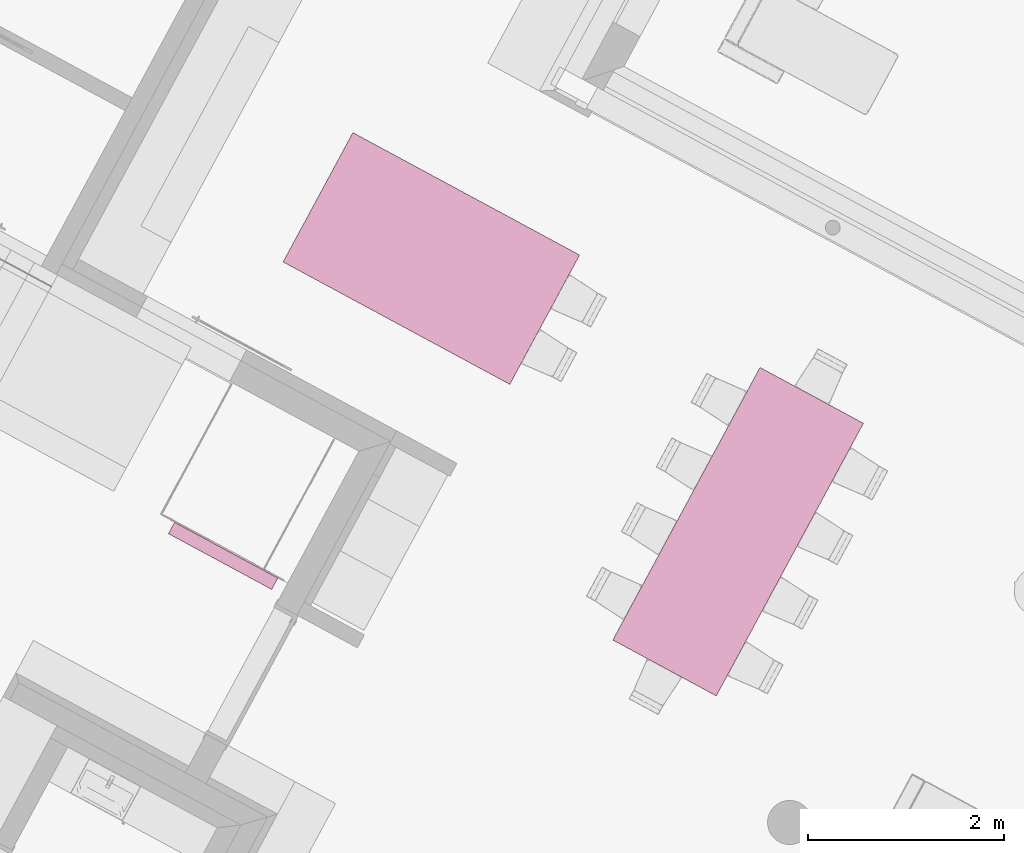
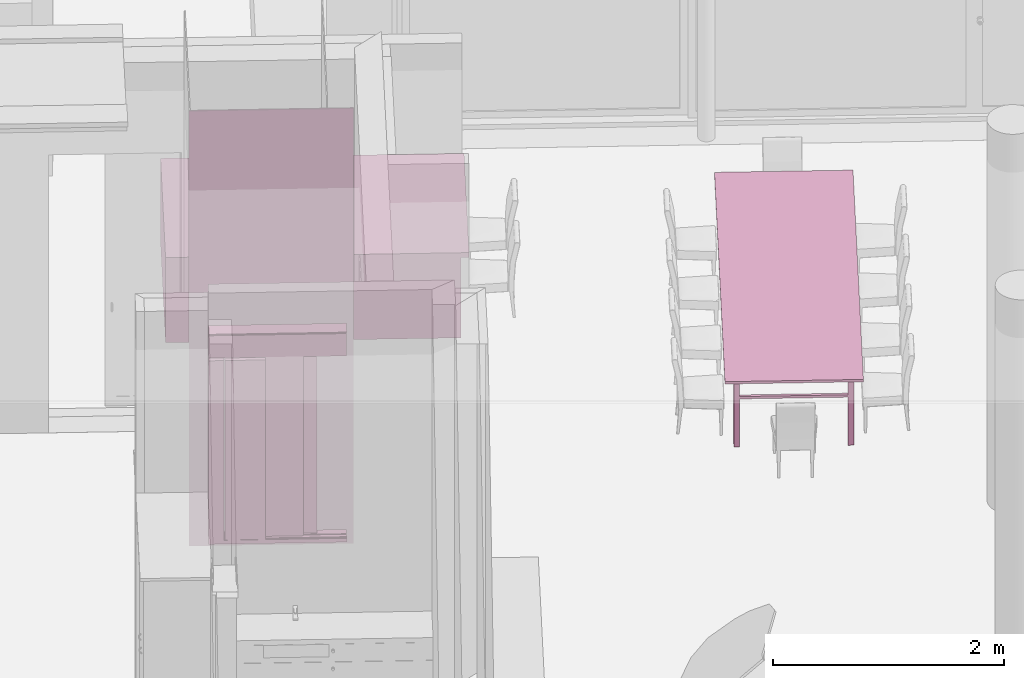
# One storey, part 32 of 36: 2 furnishings, 1 transport element, 1 opening, plus 1 element that does not belong to this part.
"""IFC2X3 building model written with IfcOpenShell, lengths in metres."""

from ifc_helpers import new_model, entity, si_unit, converted_unit, derived_unit, money_unit, direction, frame, origin_with_axes, origin_2d_with_axis, place, context, subcontext, project, spatial, polyline, rectangle, outline, extrude, open_shell, faceted_brep, surface_model, material, type_object, element, fill, save


model = new_model("IFC2X3")

# Units and contexts
model_context = context("Model", 3, precision=1e-05, world=origin_with_axes(), true_north=direction((0.0, 1.0)))
body_context = subcontext(model_context, "Body", "Model", "MODEL_VIEW")
ifc_project = project(units=[si_unit("LENGTHUNIT", "METRE"), si_unit("AREAUNIT", "SQUARE_METRE"), si_unit("VOLUMEUNIT", "CUBIC_METRE"), converted_unit("PLANEANGLEUNIT", "DEGREE", entity("IfcPlaneAngleMeasure", 0.0174532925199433), si_unit("PLANEANGLEUNIT", "RADIAN"), dimensions=[0, 0, 0, 0, 0, 0, 0]), money_unit("EUR"), converted_unit("TIMEUNIT", "Year", entity("IfcTimeMeasure", 31556926.0), si_unit("TIMEUNIT", "SECOND"), dimensions=[0, 0, 1, 0, 0, 0, 0]), si_unit("MASSUNIT", "GRAM", prefix="KILO"), si_unit("THERMODYNAMICTEMPERATUREUNIT", "DEGREE_CELSIUS"), si_unit("LUMINOUSINTENSITYUNIT", "LUMEN"), si_unit("ENERGYUNIT", "JOULE", prefix="MEGA"), derived_unit("THERMALCONDUCTANCEUNIT", [(si_unit("POWERUNIT", "WATT"), 1), (si_unit("LENGTHUNIT", "METRE"), -1), (si_unit("THERMODYNAMICTEMPERATUREUNIT", "KELVIN"), -1)]), derived_unit("SPECIFICHEATCAPACITYUNIT", [(si_unit("ENERGYUNIT", "JOULE"), 1), (si_unit("MASSUNIT", "GRAM", prefix="KILO"), -1), (si_unit("THERMODYNAMICTEMPERATUREUNIT", "KELVIN"), -1)]), derived_unit("MASSDENSITYUNIT", [(si_unit("MASSUNIT", "GRAM", prefix="KILO"), 1), (si_unit("VOLUMEUNIT", "CUBIC_METRE"), -1)])], contexts=[model_context])

# Site, building, storey
site_placement = place(None, frame((-3.949935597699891, 1.740105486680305, 0.0), z_axis=(0.0, 0.0, 1.0), x_axis=(0.8799804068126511, -0.475009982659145, 0.0)))
site = spatial("IfcSite", under=ifc_project, at=site_placement, Name="Gelände", CompositionType="ELEMENT")
building_placement = place(site_placement, origin_with_axes())
building = spatial("IfcBuilding", under=site, at=building_placement, Name="Gebäude", CompositionType="ELEMENT")
storey_placement = place(building_placement, origin_with_axes())
storey = spatial("IfcBuildingStorey", under=building, at=storey_placement, Name="Erdgeschoss", CompositionType="ELEMENT", Elevation=0.0)

# Furnishing
furniture_type_1 = type_object("IfcFurnitureType", Name="Tisch rechteckig 1 22", AssemblyPlace="NOTDEFINED")
furnishing_1_placement = place(storey_placement, frame((20.36440704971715, 10.19223236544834, 0.0), z_axis=(0.0, 0.0, 1.0), x_axis=(1.0, 0.0, 0.0)))
element("IfcFurnishingElement", 1, at=furnishing_1_placement, inside=storey, type_object=furniture_type_1, Name="Objekt-0073", ObjectType="FURNITURE", context=body_context, shape_type="Brep", body=[
    faceted_brep([(0.13, 0.08, 0.0), (0.08, 0.08, 0.0), (0.08, 0.13, 0.0), (0.13, 0.13, 0.0), (0.13, 0.08, 0.725), (0.08, 0.08, 0.725), (0.08, 0.13, 0.725), (0.13, 0.13, 0.725)], [[[0, 1, 2, 3]], [[1, 0, 4, 5]], [[2, 1, 5, 6]], [[3, 2, 6, 7]], [[0, 3, 7, 4]], [[5, 4, 7, 6]]]),
    faceted_brep([(1.119999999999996, 0.08, 0.0), (1.069999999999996, 0.08, 0.0), (1.069999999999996, 0.13, 0.0), (1.119999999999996, 0.13, 0.0), (1.119999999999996, 0.08, 0.725), (1.069999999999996, 0.08, 0.725), (1.069999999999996, 0.13, 0.725), (1.119999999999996, 0.13, 0.725)], [[[0, 1, 2, 3]], [[1, 0, 4, 5]], [[2, 1, 5, 6]], [[3, 2, 6, 7]], [[0, 3, 7, 4]], [[5, 4, 7, 6]]]),
    faceted_brep([(0.13, 3.032064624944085, 0.0), (0.08, 3.032064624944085, 0.0), (0.08, 3.082064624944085, 0.0), (0.13, 3.082064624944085, 0.0), (0.13, 3.032064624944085, 0.725), (0.08, 3.032064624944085, 0.725), (0.08, 3.082064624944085, 0.725), (0.13, 3.082064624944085, 0.725)], [[[0, 1, 2, 3]], [[1, 0, 4, 5]], [[2, 1, 5, 6]], [[3, 2, 6, 7]], [[0, 3, 7, 4]], [[5, 4, 7, 6]]]),
    faceted_brep([(1.119999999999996, 3.032064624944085, 0.0), (1.069999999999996, 3.032064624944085, 0.0), (1.069999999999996, 3.082064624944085, 0.0), (1.119999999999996, 3.082064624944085, 0.0), (1.119999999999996, 3.032064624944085, 0.725), (1.069999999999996, 3.032064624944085, 0.725), (1.069999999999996, 3.082064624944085, 0.725), (1.119999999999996, 3.082064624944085, 0.725)], [[[0, 1, 2, 3]], [[1, 0, 4, 5]], [[2, 1, 5, 6]], [[3, 2, 6, 7]], [[0, 3, 7, 4]], [[5, 4, 7, 6]]]),
    faceted_brep([(1.199999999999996, 0.0, 0.725), (0.0, 0.0, 0.725), (0.0, 3.162064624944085, 0.725), (1.199999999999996, 3.162064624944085, 0.725), (1.199999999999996, 0.0, 0.75), (0.0, 0.0, 0.75), (0.0, 3.162064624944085, 0.75), (1.199999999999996, 3.162064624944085, 0.75)], [[[0, 1, 2, 3]], [[1, 0, 4, 5]], [[2, 1, 5, 6]], [[3, 2, 6, 7]], [[0, 3, 7, 4]], [[5, 4, 7, 6]]]),
    faceted_brep([(1.069999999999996, 0.0925, 0.5), (0.13, 0.0925, 0.5), (0.13, 0.1175, 0.5), (1.069999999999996, 0.1175, 0.5), (1.069999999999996, 0.0925, 0.525), (0.13, 0.0925, 0.525), (0.13, 0.1175, 0.525), (1.069999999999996, 0.1175, 0.525)], [[[0, 1, 2, 3]], [[1, 0, 4, 5]], [[2, 1, 5, 6]], [[3, 2, 6, 7]], [[0, 3, 7, 4]], [[5, 4, 7, 6]]]),
    faceted_brep([(0.1175, 0.13, 0.5), (0.0925, 0.13, 0.5), (0.0925, 3.032064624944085, 0.5), (0.1175, 3.032064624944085, 0.5), (0.1175, 0.13, 0.525), (0.0925, 0.13, 0.525), (0.0925, 3.032064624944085, 0.525), (0.1175, 3.032064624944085, 0.525)], [[[0, 1, 2, 3]], [[1, 0, 4, 5]], [[2, 1, 5, 6]], [[3, 2, 6, 7]], [[0, 3, 7, 4]], [[5, 4, 7, 6]]]),
    faceted_brep([(0.1300000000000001, 3.069564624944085, 0.5), (1.069999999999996, 3.069564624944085, 0.5), (1.069999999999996, 3.044564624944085, 0.5), (0.1300000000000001, 3.044564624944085, 0.5), (0.1300000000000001, 3.069564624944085, 0.525), (1.069999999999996, 3.069564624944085, 0.525), (1.069999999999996, 3.044564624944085, 0.525), (0.1300000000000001, 3.044564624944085, 0.525)], [[[0, 1, 2, 3]], [[1, 0, 4, 5]], [[2, 1, 5, 6]], [[3, 2, 6, 7]], [[0, 3, 7, 4]], [[5, 4, 7, 6]]]),
    faceted_brep([(1.082499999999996, 3.032064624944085, 0.5), (1.107499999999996, 3.032064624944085, 0.5), (1.107499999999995, 0.1299999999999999, 0.5), (1.082499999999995, 0.1299999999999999, 0.5), (1.082499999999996, 3.032064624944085, 0.525), (1.107499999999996, 3.032064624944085, 0.525), (1.107499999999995, 0.1299999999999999, 0.525), (1.082499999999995, 0.1299999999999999, 0.525)], [[[0, 1, 2, 3]], [[1, 0, 4, 5]], [[2, 1, 5, 6]], [[3, 2, 6, 7]], [[0, 3, 7, 4]], [[5, 4, 7, 6]]]),
])

# Transport elements, opening
ifc_material = material(Name="Glas, Normalglas")
transport_element_type_1 = type_object("IfcTransportElementType", Name="Glas, Normalglas 10", PredefinedType="ELEVATOR")
transport_element_1_placement = place(storey_placement, frame((15.6924954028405, 9.127799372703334, -0.15), z_axis=(0.0, 0.0, 1.0), x_axis=(0.9999999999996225, 8.689518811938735e-07, 0.0)))
transport_element_1 = element("IfcTransportElement", 2, at=transport_element_1_placement, inside=storey, type_object=transport_element_type_1, material=ifc_material, Name="Aufzug2", ObjectType="ELEVATOR", context=body_context, shape_type="SweptSolid", body=[
    extrude(outline(polyline([(0.0, 0.0), (1.424798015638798, 0.0), (1.424798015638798, 0.009999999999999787), (0.01000001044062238, 0.009999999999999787), (0.0, 0.0)])), origin_with_axes(), (0.0, 0.0, 1.0), 4.600000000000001),
])
opening_placement = place(transport_element_1_placement, frame((0.6342390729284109, 0.0, 0.15), z_axis=(0.0, 0.0, 1.0), x_axis=(1.0, 0.0, 0.0)))
opening = element("IfcOpeningElement", 3, at=opening_placement, cuts=transport_element_1, Name="Tür-011", context=body_context, shape_type="SweptSolid", body=[
    extrude(rectangle(XDim=0.9000000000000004, YDim=2.05, at=origin_2d_with_axis()), frame((8.689756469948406e-09, 0.009999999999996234, 1.025), z_axis=(8.689518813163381e-07, 0.9999999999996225, 0.0), x_axis=(0.9999999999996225, -8.689518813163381e-07, 0.0)), (0.0, 0.0, -1.0), 0.03),
])
transport_element_type_2 = type_object("IfcTransportElementType", Name="Teleskoptür 22", PredefinedType="ELEVATOR")
transport_element_2_placement = place(opening_placement, frame((0.4499999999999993, 0.0, 0.0), z_axis=(0.0, 0.0, 1.0), x_axis=(-1.0, 0.0, 0.0)))
transport_element_2 = element("IfcTransportElement", 4, at=transport_element_2_placement, inside=storey, type_object=transport_element_type_2, Name="Tür-011", ObjectType="ELEVATOR", context=body_context, shape_type="SurfaceModel", body=[
    faceted_brep([(-0.2774999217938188, 0.09000118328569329, 1.9), (-0.2774999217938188, 0.09000118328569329, 1.938), (0.9200000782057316, 0.09000014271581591, 1.938), (0.9200000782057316, 0.09000014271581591, 1.9), (-0.2774999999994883, 1.18328572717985e-06, 1.9), (-0.2774999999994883, 1.18328572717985e-06, 2.18), (-0.2774998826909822, 0.1350011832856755, 2.18), (-0.2774998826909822, 0.1350011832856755, 2.177), (-0.2774999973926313, 0.003001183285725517, 2.177), (-0.2774999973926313, 0.003001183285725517, 1.903), (-0.2774999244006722, 0.08700118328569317, 1.903), (-0.2774999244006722, 0.08700118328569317, 1.938), (0.9200000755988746, 0.0870001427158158, 1.938), (0.9200000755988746, 0.0870001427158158, 1.903), (0.9200000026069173, 0.003000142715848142, 1.903), (0.9200000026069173, 0.003000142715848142, 2.177), (0.9200001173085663, 0.1350001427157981, 2.177), (0.9200001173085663, 0.1350001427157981, 2.18), (0.9200000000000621, 1.42715849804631e-07, 2.18), (0.9200000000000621, 1.42715849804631e-07, 1.9)], [[[0, 1, 2, 3]], [[0, 4, 5, 6, 7, 8, 9, 10, 11, 1]], [[1, 11, 12, 2]], [[3, 2, 12, 13, 14, 15, 16, 17, 18, 19]], [[4, 0, 3, 19]], [[5, 4, 19, 18]], [[6, 5, 18, 17]], [[7, 6, 17, 16]], [[8, 7, 16, 15]], [[9, 8, 15, 14]], [[10, 9, 14, 13]], [[11, 10, 13, 12]]]),
    faceted_brep([(-0.2774999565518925, 0.05000118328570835, 1.903), (-0.2774999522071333, 0.05500118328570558, 1.903), (0.9200000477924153, 0.0550001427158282, 1.903), (0.9200000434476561, 0.0500001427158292, 1.903), (-0.2774999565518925, 0.05000118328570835, 2.14), (-0.2774999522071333, 0.05500118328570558, 2.14), (0.9200000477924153, 0.0550001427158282, 2.14), (0.9200000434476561, 0.0500001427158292, 2.14)], [[[0, 1, 2, 3]], [[0, 4, 5, 1]], [[1, 5, 6, 2]], [[3, 2, 6, 7]], [[4, 0, 3, 7]], [[5, 4, 7, 6]]]),
    faceted_brep([(-0.2774999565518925, 0.05000118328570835, 2.13), (-0.277499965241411, 0.04000118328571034, 2.13), (0.9200000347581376, 0.04000014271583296, 2.13), (0.9200000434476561, 0.0500001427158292, 2.13), (-0.2774999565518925, 0.05000118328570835, 2.07), (-0.277499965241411, 0.04000118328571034, 2.07), (0.9200000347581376, 0.04000014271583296, 2.07), (0.9200000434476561, 0.0500001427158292, 2.07)], [[[0, 1, 2, 3]], [[0, 4, 5, 1]], [[1, 5, 6, 2]], [[3, 2, 6, 7]], [[4, 0, 3, 7]], [[5, 4, 7, 6]]]),
    faceted_brep([(-0.2774999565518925, 0.05000118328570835, 2.0), (-0.277499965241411, 0.04000118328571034, 2.0), (0.9200000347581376, 0.04000014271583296, 2.0), (0.9200000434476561, 0.0500001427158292, 2.0), (-0.2774999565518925, 0.05000118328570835, 1.96), (-0.277499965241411, 0.04000118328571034, 1.96), (0.9200000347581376, 0.04000014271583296, 1.96), (0.9200000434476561, 0.0500001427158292, 1.96)], [[[0, 1, 2, 3]], [[0, 4, 5, 1]], [[1, 5, 6, 2]], [[3, 2, 6, 7]], [[4, 0, 3, 7]], [[5, 4, 7, 6]]]),
    faceted_brep([(-0.2774999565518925, 0.05000118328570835, 2.07), (-0.2774999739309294, 0.03000118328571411, 2.07), (0.9200000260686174, 0.03000014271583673, 2.07), (0.9200000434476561, 0.0500001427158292, 2.07), (-0.2774999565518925, 0.05000118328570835, 2.0), (-0.2774999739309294, 0.03000118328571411, 2.0), (0.9200000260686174, 0.03000014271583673, 2.0), (0.9200000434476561, 0.0500001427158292, 2.0)], [[[0, 1, 2, 3]], [[0, 4, 5, 1]], [[1, 5, 6, 2]], [[3, 2, 6, 7]], [[4, 0, 3, 7]], [[5, 4, 7, 6]]]),
    faceted_brep([(-0.2774999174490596, 0.09500118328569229, 1.903), (-0.2774999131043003, 0.1000011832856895, 1.903), (0.92000008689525, 0.1000001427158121, 1.903), (0.9200000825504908, 0.09500014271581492, 1.903), (-0.2774999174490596, 0.09500118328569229, 2.14), (-0.2774999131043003, 0.1000011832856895, 2.14), (0.92000008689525, 0.1000001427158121, 2.14), (0.9200000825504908, 0.09500014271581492, 2.14)], [[[0, 1, 2, 3]], [[0, 4, 5, 1]], [[1, 5, 6, 2]], [[3, 2, 6, 7]], [[4, 0, 3, 7]], [[5, 4, 7, 6]]]),
    faceted_brep([(-0.2774999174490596, 0.09500118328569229, 2.13), (-0.277499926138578, 0.08500118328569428, 2.13), (0.9200000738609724, 0.0850001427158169, 2.13), (0.9200000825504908, 0.09500014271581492, 2.13), (-0.2774999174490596, 0.09500118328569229, 2.07), (-0.277499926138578, 0.08500118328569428, 2.07), (0.9200000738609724, 0.0850001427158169, 2.07), (0.9200000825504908, 0.09500014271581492, 2.07)], [[[0, 1, 2, 3]], [[0, 4, 5, 1]], [[1, 5, 6, 2]], [[3, 2, 6, 7]], [[4, 0, 3, 7]], [[5, 4, 7, 6]]]),
    faceted_brep([(-0.2774999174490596, 0.09500118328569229, 2.0), (-0.277499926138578, 0.08500118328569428, 2.0), (0.9200000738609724, 0.0850001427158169, 2.0), (0.9200000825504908, 0.09500014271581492, 2.0), (-0.2774999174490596, 0.09500118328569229, 1.96), (-0.277499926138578, 0.08500118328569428, 1.96), (0.9200000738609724, 0.0850001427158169, 1.96), (0.9200000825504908, 0.09500014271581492, 1.96)], [[[0, 1, 2, 3]], [[0, 4, 5, 1]], [[1, 5, 6, 2]], [[3, 2, 6, 7]], [[4, 0, 3, 7]], [[5, 4, 7, 6]]]),
    faceted_brep([(-0.2774999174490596, 0.09500118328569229, 2.07), (-0.2774999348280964, 0.07500118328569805, 2.07), (0.9200000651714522, 0.07500014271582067, 2.07), (0.9200000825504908, 0.09500014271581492, 2.07), (-0.2774999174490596, 0.09500118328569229, 2.0), (-0.2774999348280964, 0.07500118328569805, 2.0), (0.9200000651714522, 0.07500014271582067, 2.0), (0.9200000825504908, 0.09500014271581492, 2.0)], [[[0, 1, 2, 3]], [[0, 4, 5, 1]], [[1, 5, 6, 2]], [[3, 2, 6, 7]], [[4, 0, 3, 7]], [[5, 4, 7, 6]]]),
    faceted_brep([(-0.2774999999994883, 1.18328572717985e-06, 0.0), (-0.2774999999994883, 1.18328572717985e-06, -0.04), (0.9200000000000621, 1.42715849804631e-07, -0.04), (0.9200000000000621, 1.42715849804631e-07, 0.0), (-0.2774999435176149, 0.06500118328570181, 0.0), (-0.2774999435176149, 0.06500118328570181, -0.009999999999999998), (-0.2774999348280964, 0.07500118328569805, -0.009999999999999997), (-0.2774999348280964, 0.07500118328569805, 0.0), (-0.2774999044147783, 0.110001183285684, 0.0), (-0.2774999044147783, 0.110001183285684, -0.009999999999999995), (-0.2774998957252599, 0.1200011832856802, -0.009999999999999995), (-0.2774998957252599, 0.1200011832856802, 0.0), (-0.2774998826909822, 0.1350011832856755, 0.0), (-0.2774998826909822, 0.1350011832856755, -0.03999999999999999), (0.9200001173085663, 0.1350001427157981, -0.03999999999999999), (0.9200001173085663, 0.1350001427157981, 0.0), (0.9200001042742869, 0.1200001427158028, 0.0), (0.9200001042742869, 0.1200001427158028, -0.009999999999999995), (0.9200000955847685, 0.1100001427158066, -0.009999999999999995), (0.9200000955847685, 0.1100001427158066, 0.0), (0.9200000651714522, 0.07500014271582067, 0.0), (0.9200000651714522, 0.07500014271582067, -0.009999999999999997), (0.9200000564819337, 0.06500014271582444, -0.009999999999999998), (0.9200000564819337, 0.06500014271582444, 0.0)], [[[0, 1, 2, 3]], [[0, 4, 5, 6, 7, 8, 9, 10, 11, 12, 13, 1]], [[1, 13, 14, 2]], [[3, 2, 14, 15, 16, 17, 18, 19, 20, 21, 22, 23]], [[4, 0, 3, 23]], [[5, 4, 23, 22]], [[6, 5, 22, 21]], [[7, 6, 21, 20]], [[8, 7, 20, 19]], [[9, 8, 19, 18]], [[10, 9, 18, 17]], [[11, 10, 17, 16]], [[12, 11, 16, 15]], [[13, 12, 15, 14]]]),
    faceted_brep([(0.1150000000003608, 8.422221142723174e-07, 0.0), (0.1150000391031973, 0.04500084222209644, 0.0), (0.1150000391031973, 0.04500084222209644, 1.9), (0.1150000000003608, 8.422221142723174e-07, 1.9), (-0.01999999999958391, 9.59530618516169e-07, 0.0), (-0.01999996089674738, 0.04500095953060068, 0.0), (-0.01999996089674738, 0.04500095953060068, 1.9), (-0.01999999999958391, 9.59530618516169e-07, 1.9)], [[[0, 1, 2, 3]], [[0, 4, 5, 1]], [[1, 5, 6, 2]], [[3, 2, 6, 7]], [[4, 0, 3, 7]], [[5, 4, 7, 6]]]),
    faceted_brep([(0.9200000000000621, 1.42715849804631e-07, 0.0), (0.9200001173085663, 0.1350001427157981, 0.0), (0.9200001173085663, 0.1350001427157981, 1.9), (0.9200000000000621, 1.42715849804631e-07, 1.9), (0.785000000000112, 2.600243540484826e-07, 0.0), (0.7850001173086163, 0.1350002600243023, 0.0), (0.7850001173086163, 0.1350002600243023, 1.9), (0.785000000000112, 2.600243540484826e-07, 1.9)], [[[0, 1, 2, 3]], [[0, 4, 5, 1]], [[1, 5, 6, 2]], [[3, 2, 6, 7]], [[4, 0, 3, 7]], [[5, 4, 7, 6]]]),
    faceted_brep([(-0.1800000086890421, -0.009998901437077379, 0.8), (-0.1000000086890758, -0.00999897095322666, 0.8), (-0.1000000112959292, -0.012998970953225, 0.8), (-0.1800000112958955, -0.01299890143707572, 0.8), (-0.1800000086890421, -0.009998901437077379, 1.06), (-0.1000000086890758, -0.00999897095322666, 1.06), (-0.1700000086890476, -0.009998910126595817, 1.03), (-0.1700000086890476, -0.009998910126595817, 0.9400000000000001), (-0.1100000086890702, -0.009998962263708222, 0.9400000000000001), (-0.1100000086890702, -0.009998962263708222, 1.03), (-0.1500000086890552, -0.009998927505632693, 0.8400000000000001), (-0.1300000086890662, -0.009998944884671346, 0.8400000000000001), (-0.1300000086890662, -0.009998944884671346, 0.8600000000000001), (-0.1500000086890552, -0.009998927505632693, 0.8600000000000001), (-0.1500000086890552, -0.009998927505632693, 0.88), (-0.1300000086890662, -0.009998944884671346, 0.88), (-0.1300000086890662, -0.009998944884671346, 0.9), (-0.1500000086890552, -0.009998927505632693, 0.9), (-0.1000000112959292, -0.012998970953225, 1.06), (-0.1800000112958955, -0.01299890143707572, 1.06), (-0.170000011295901, -0.01299891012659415, 1.03), (-0.1100000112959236, -0.01299896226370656, 1.03), (-0.1100000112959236, -0.01299896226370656, 0.9400000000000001), (-0.170000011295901, -0.01299891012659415, 0.9400000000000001), (-0.1500000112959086, -0.01299892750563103, 0.8400000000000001), (-0.1500000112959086, -0.01299892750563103, 0.8600000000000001), (-0.1300000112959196, -0.01299894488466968, 0.8600000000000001), (-0.1300000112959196, -0.01299894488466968, 0.8400000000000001), (-0.1500000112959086, -0.01299892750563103, 0.88), (-0.1500000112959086, -0.01299892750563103, 0.9), (-0.1300000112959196, -0.01299894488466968, 0.9), (-0.1300000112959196, -0.01299894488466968, 0.88)], [[[0, 1, 2, 3]], [[0, 4, 5, 1], [6, 7, 8, 9], [10, 11, 12, 13], [14, 15, 16, 17]], [[1, 5, 18, 2]], [[3, 2, 18, 19], [20, 21, 22, 23], [24, 25, 26, 27], [28, 29, 30, 31]], [[4, 0, 3, 19]], [[5, 4, 19, 18]], [[7, 6, 20, 23]], [[8, 7, 23, 22]], [[9, 8, 22, 21]], [[6, 9, 21, 20]], [[11, 10, 24, 27]], [[12, 11, 27, 26]], [[13, 12, 26, 25]], [[10, 13, 25, 24]], [[15, 14, 28, 31]], [[16, 15, 31, 30]], [[17, 16, 30, 29]], [[14, 17, 29, 28]]]),
    faceted_brep([(-0.1700000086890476, -0.009998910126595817, 0.9400000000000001), (-0.1100000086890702, -0.009998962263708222, 0.9400000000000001), (-0.1100000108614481, -0.01249896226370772, 0.9400000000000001), (-0.1700000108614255, -0.01249891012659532, 0.9400000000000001), (-0.1700000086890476, -0.009998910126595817, 1.03), (-0.1100000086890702, -0.009998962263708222, 1.03), (-0.1100000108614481, -0.01249896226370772, 1.03), (-0.1700000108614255, -0.01249891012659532, 1.03)], [[[0, 1, 2, 3]], [[0, 4, 5, 1]], [[1, 5, 6, 2]], [[3, 2, 6, 7]], [[4, 0, 3, 7]], [[5, 4, 7, 6]]]),
    surface_model("IfcShellBasedSurfaceModel", [(-0.1560000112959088, -0.01299892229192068, 1.005), (-0.1500000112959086, -0.01299892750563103, 1.021), (-0.1440000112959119, -0.01299893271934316, 1.005)], [open_shell([[[0, 1, 2]]])]),
    surface_model("IfcShellBasedSurfaceModel", [(-0.1300000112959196, -0.01299894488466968, 1.005), (-0.1360000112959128, -0.01299893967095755, 1.021), (-0.1240000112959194, -0.01299895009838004, 1.021)], [open_shell([[[0, 1, 2]]])]),
    surface_model("IfcShellBasedSurfaceModel", [(-0.1427272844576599, -0.01349893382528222, 0.9820000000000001), (-0.1427272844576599, -0.01349893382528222, 0.9716363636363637), (-0.144090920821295, -0.01349893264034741, 0.9702727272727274), (-0.1454545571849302, -0.01349893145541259, 0.9716363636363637), (-0.1454545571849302, -0.01349893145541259, 0.9820000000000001), (-0.144090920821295, -0.01349893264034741, 0.9833636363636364)], [open_shell([[[0, 1, 2, 3, 4, 5]]])]),
    surface_model("IfcShellBasedSurfaceModel", [(-0.1427272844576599, -0.01349893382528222, 0.9683636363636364), (-0.1427272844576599, -0.01349893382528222, 0.9580000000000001), (-0.144090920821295, -0.01349893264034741, 0.9566363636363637), (-0.1454545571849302, -0.01349893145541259, 0.9580000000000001), (-0.1454545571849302, -0.01349893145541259, 0.9683636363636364), (-0.144090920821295, -0.01349893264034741, 0.9697272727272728)], [open_shell([[[0, 1, 2, 3, 4, 5]]])]),
    surface_model("IfcShellBasedSurfaceModel", [(-0.1239091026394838, -0.01349895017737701, 0.9822727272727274), (-0.1342727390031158, -0.01349894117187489, 0.9822727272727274), (-0.1356363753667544, -0.01349893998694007, 0.9836363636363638), (-0.1342727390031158, -0.01349894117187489, 0.9850000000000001), (-0.1239091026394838, -0.01349895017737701, 0.9850000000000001), (-0.1225454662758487, -0.01349895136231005, 0.9836363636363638)], [open_shell([[[0, 1, 2, 3, 4, 5]]])]),
    surface_model("IfcShellBasedSurfaceModel", [(-0.1209091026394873, -0.01349895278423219, 0.9820000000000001), (-0.1209091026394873, -0.01349895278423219, 0.9716363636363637), (-0.1222727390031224, -0.01349895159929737, 0.9702727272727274), (-0.1236363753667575, -0.01349895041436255, 0.9716363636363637), (-0.1236363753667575, -0.01349895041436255, 0.9820000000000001), (-0.1222727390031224, -0.01349895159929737, 0.9833636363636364)], [open_shell([[[0, 1, 2, 3, 4, 5]]])]),
    surface_model("IfcShellBasedSurfaceModel", [(-0.1239091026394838, -0.01349895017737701, 0.9686363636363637), (-0.1342727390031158, -0.01349894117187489, 0.9686363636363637), (-0.1356363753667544, -0.01349893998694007, 0.9700000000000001), (-0.1342727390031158, -0.01349894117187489, 0.9713636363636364), (-0.1239091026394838, -0.01349895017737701, 0.9713636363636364), (-0.1225454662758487, -0.01349895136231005, 0.9700000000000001)], [open_shell([[[0, 1, 2, 3, 4, 5]]])]),
    surface_model("IfcShellBasedSurfaceModel", [(-0.1345454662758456, -0.01349894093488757, 0.9683636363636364), (-0.1345454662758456, -0.01349894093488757, 0.9580000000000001), (-0.1359091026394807, -0.01349893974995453, 0.9566363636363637), (-0.1372727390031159, -0.01349893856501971, 0.9580000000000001), (-0.1372727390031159, -0.01349893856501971, 0.9683636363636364), (-0.1359091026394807, -0.01349893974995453, 0.9697272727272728)], [open_shell([[[0, 1, 2, 3, 4, 5]]])]),
    surface_model("IfcShellBasedSurfaceModel", [(-0.1239091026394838, -0.01349895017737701, 0.9550000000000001), (-0.1342727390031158, -0.01349894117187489, 0.9550000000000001), (-0.1356363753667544, -0.01349893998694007, 0.9563636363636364), (-0.1342727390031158, -0.01349894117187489, 0.9577272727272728), (-0.1239091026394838, -0.01349895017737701, 0.9577272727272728), (-0.1225454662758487, -0.01349895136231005, 0.9563636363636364)], [open_shell([[[0, 1, 2, 3, 4, 5]]])]),
    faceted_brep([(-0.1300000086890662, -0.009998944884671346, 0.8400000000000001), (-0.1500000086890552, -0.009998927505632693, 0.8400000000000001), (-0.1500000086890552, -0.009998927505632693, 0.8600000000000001), (-0.1300000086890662, -0.009998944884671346, 0.8600000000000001), (-0.1300000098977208, -0.0114989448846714, 0.8399999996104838), (-0.1500000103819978, -0.01149892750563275, 0.8399999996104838), (-0.1500000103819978, -0.01149892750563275, 0.8600000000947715), (-0.1300000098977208, -0.0114989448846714, 0.8600000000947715), (-0.131400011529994, -0.01289894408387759, 0.8414000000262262), (-0.1486000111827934, -0.01289892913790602, 0.8414000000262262), (-0.1486000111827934, -0.01289892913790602, 0.8585999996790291), (-0.131400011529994, -0.01289894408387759, 0.8585999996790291)], [[[0, 1, 2, 3]], [[1, 0, 4, 5]], [[2, 1, 5, 6]], [[3, 2, 6, 7]], [[0, 3, 7, 4]], [[5, 4, 8, 9]], [[6, 5, 9, 10]], [[7, 6, 10, 11]], [[4, 7, 11, 8]], [[10, 9, 8, 11]]]),
    surface_model("IfcShellBasedSurfaceModel", [(-0.1350000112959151, -0.01299894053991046, 0.8550000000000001), (-0.1400000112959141, -0.01299893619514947, 0.8440000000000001), (-0.1450000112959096, -0.01299893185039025, 0.8550000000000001)], [open_shell([[[0, 1, 2]]])]),
    faceted_brep([(-0.1300000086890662, -0.009998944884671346, 0.8800000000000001), (-0.1500000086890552, -0.009998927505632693, 0.8800000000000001), (-0.1500000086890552, -0.009998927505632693, 0.9000000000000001), (-0.1300000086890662, -0.009998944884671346, 0.9000000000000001), (-0.1300000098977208, -0.0114989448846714, 0.8799999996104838), (-0.1500000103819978, -0.01149892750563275, 0.8799999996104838), (-0.1500000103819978, -0.01149892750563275, 0.9000000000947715), (-0.1300000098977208, -0.0114989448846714, 0.9000000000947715), (-0.131400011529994, -0.01289894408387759, 0.8814000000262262), (-0.1486000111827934, -0.01289892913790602, 0.8814000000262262), (-0.1486000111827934, -0.01289892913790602, 0.8985999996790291), (-0.131400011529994, -0.01289894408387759, 0.8985999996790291)], [[[0, 1, 2, 3]], [[1, 0, 4, 5]], [[2, 1, 5, 6]], [[3, 2, 6, 7]], [[0, 3, 7, 4]], [[5, 4, 8, 9]], [[6, 5, 9, 10]], [[7, 6, 10, 11]], [[4, 7, 11, 8]], [[10, 9, 8, 11]]]),
    surface_model("IfcShellBasedSurfaceModel", [(-0.1350000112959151, -0.01299894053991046, 0.8850000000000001), (-0.1450000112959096, -0.01299893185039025, 0.8850000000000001), (-0.1400000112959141, -0.01299893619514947, 0.8960000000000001)], [open_shell([[[0, 1, 2]]])]),
    faceted_brep([(0.4275000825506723, 0.09500057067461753, 0.003000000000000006), (0.4275001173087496, 0.1350005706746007, 0.003000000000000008), (0.7800001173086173, 0.1350002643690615, 0.003000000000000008), (0.7800000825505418, 0.09500026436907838, 0.003000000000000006), (0.4275000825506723, 0.09500057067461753, 1.9), (0.4275001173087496, 0.1350005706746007, 1.9), (0.7800001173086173, 0.1350002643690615, 1.9), (0.7800000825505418, 0.09500026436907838, 1.9)], [[[0, 1, 2, 3]], [[4, 5, 1, 0]], [[1, 5, 6, 2]], [[3, 2, 6, 7]], [[0, 3, 7, 4]], [[7, 6, 5, 4]]]),
    faceted_brep([(0.09500004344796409, 0.0500008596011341, 0.003000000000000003), (0.09500007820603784, 0.09000085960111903, 0.003000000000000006), (0.4475000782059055, 0.09000055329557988, 0.003000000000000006), (0.4475000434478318, 0.05000055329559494, 0.003000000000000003), (0.09500004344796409, 0.0500008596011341, 1.9), (0.09500007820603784, 0.09000085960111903, 1.9), (0.4475000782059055, 0.09000055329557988, 1.9), (0.4475000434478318, 0.05000055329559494, 1.9)], [[[0, 1, 2, 3]], [[4, 5, 1, 0]], [[1, 5, 6, 2]], [[3, 2, 6, 7]], [[0, 3, 7, 4]], [[7, 6, 5, 4]]]),
])
fill(opening, transport_element_2)

# Furnishing
furniture_type_2 = type_object("IfcFurnitureType", Name="Unterschrank Mehrfach-Schublade 22", AssemblyPlace="NOTDEFINED")
furnishing_2_placement = place(storey_placement, frame((18.1989561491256, 13.48952249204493, 0.0), z_axis=(0.0, 0.0, 1.0), x_axis=(0.0, 1.0, 0.0)))
element("IfcFurnishingElement", 5, at=furnishing_2_placement, inside=storey, type_object=furniture_type_2, Name="Objekt-0064", ObjectType="FURNITURE", context=body_context, shape_type="Brep", body=[
    faceted_brep([(0.0, 0.07, 0.0), (0.0, 0.07, 0.09), (-1.5, 0.07, 0.09), (-1.5, 0.07, 0.0), (0.0, 2.63, 0.0), (0.0, 2.63, 0.09), (-1.5, 2.63, 0.09), (-1.5, 2.63, 0.0)], [[[0, 1, 2, 3]], [[4, 5, 1, 0]], [[1, 5, 6, 2]], [[3, 2, 6, 7]], [[0, 3, 7, 4]], [[7, 6, 5, 4]]]),
    faceted_brep([(0.0, 0.07, 0.83), (0.0, 0.07, 0.85), (-0.02, 0.07, 0.85), (-0.02, 0.07, 0.83), (0.0, 2.63, 0.83), (0.0, 2.63, 0.85), (-0.02, 2.63, 0.85), (-1.48, 2.63, 0.85), (-1.5, 2.63, 0.85), (-1.5, 0.07, 0.85), (-1.48, 0.07, 0.85), (-1.48, 0.07, 0.83), (-1.5, 0.07, 0.83), (-1.5, 2.63, 0.83), (-1.48, 2.63, 0.83), (-0.02, 2.63, 0.83)], [[[0, 1, 2, 3]], [[4, 5, 1, 0]], [[1, 5, 6, 7, 8, 9, 10, 2]], [[3, 2, 10, 11]], [[0, 3, 11, 12, 13, 14, 15, 4]], [[15, 6, 5, 4]], [[14, 7, 6, 15]], [[13, 8, 7, 14]], [[12, 9, 8, 13]], [[11, 10, 9, 12]]]),
    faceted_brep([(0.0, 0.07, 0.09), (0.0, 0.07, 0.11), (-0.02, 0.07, 0.11), (-0.02, 0.07, 0.09), (0.0, 2.63, 0.09), (0.0, 2.63, 0.11), (-0.02, 2.63, 0.11), (-1.48, 2.63, 0.11), (-1.5, 2.63, 0.11), (-1.5, 0.07, 0.11), (-1.48, 0.07, 0.11), (-1.48, 0.07, 0.09), (-1.5, 0.07, 0.09), (-1.5, 2.63, 0.09), (-1.48, 2.63, 0.09), (-0.02, 2.63, 0.09)], [[[0, 1, 2, 3]], [[4, 5, 1, 0]], [[1, 5, 6, 7, 8, 9, 10, 2]], [[3, 2, 10, 11]], [[0, 3, 11, 12, 13, 14, 15, 4]], [[15, 6, 5, 4]], [[14, 7, 6, 15]], [[13, 8, 7, 14]], [[12, 9, 8, 13]], [[11, 10, 9, 12]]]),
    faceted_brep([(0.0, 0.07, 0.11), (0.0, 0.07, 0.83), (-0.02, 0.07, 0.83), (-0.02, 0.07, 0.11), (0.0, 2.63, 0.11), (0.0, 2.63, 0.83), (-1.5, 2.63, 0.83), (-1.5, 0.07, 0.83), (-1.48, 0.07, 0.83), (-1.48, 2.61, 0.83), (-0.02, 2.61, 0.83), (-0.02, 2.61, 0.11), (-1.48, 2.61, 0.11), (-1.48, 0.07, 0.11), (-1.5, 0.07, 0.11), (-1.5, 2.63, 0.11)], [[[0, 1, 2, 3]], [[4, 5, 1, 0]], [[1, 5, 6, 7, 8, 9, 10, 2]], [[3, 2, 10, 11]], [[0, 3, 11, 12, 13, 14, 15, 4]], [[15, 6, 5, 4]], [[14, 7, 6, 15]], [[13, 8, 7, 14]], [[12, 9, 8, 13]], [[11, 10, 9, 12]]]),
    faceted_brep([(0.0, 0.0, 0.85), (0.0, 0.0, 0.9), (-1.5, 0.0, 0.9), (-1.5, 0.0, 0.85), (0.0, 2.63, 0.85), (0.0, 2.63, 0.9), (-1.5, 2.63, 0.9), (-1.5, 2.63, 0.85)], [[[0, 1, 2, 3]], [[4, 5, 1, 0]], [[1, 5, 6, 2]], [[3, 2, 6, 7]], [[0, 3, 7, 4]], [[7, 6, 5, 4]]]),
])

save(model, "model.ifc")
